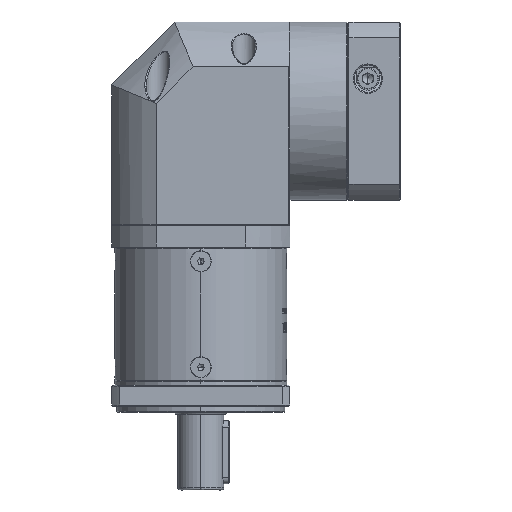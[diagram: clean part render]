
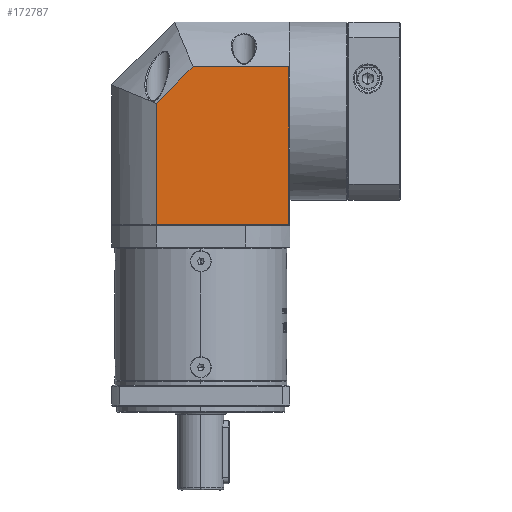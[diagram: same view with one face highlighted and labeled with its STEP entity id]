
A CAD part, front view. The second image highlights one B-rep face of the part: STEP entity #172787.
In plain terms, the highlighted planar face has unit normal (0, -1, 0).
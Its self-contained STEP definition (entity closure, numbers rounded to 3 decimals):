
#1022 = CARTESIAN_POINT ( 'NONE',  ( -17.104, 108.276, -58.338 ) ) ;
#1409 = ORIENTED_EDGE ( 'NONE', *, *, #33025, .F. ) ;
#5832 = LINE ( 'NONE', #173617, #166578 ) ;
#9491 = DIRECTION ( 'NONE',  ( 0., 0., 1. ) ) ;
#19259 = DIRECTION ( 'NONE',  ( 0., 0., -1. ) ) ;
#29913 = LINE ( 'NONE', #101221, #167103 ) ;
#33025 = EDGE_CURVE ( 'NONE', #138522, #41418, #5832, .T. ) ;
#39220 = FACE_OUTER_BOUND ( 'NONE', #160134, .T. ) ;
#40682 = VERTEX_POINT ( 'NONE', #101762 ) ;
#41418 = VERTEX_POINT ( 'NONE', #109873 ) ;
#49243 = LINE ( 'NONE', #134871, #81418 ) ;
#51247 = CARTESIAN_POINT ( 'NONE',  ( -17.104, 108.276, -0.656 ) ) ;
#52696 = DIRECTION ( 'NONE',  ( 1., 0., 0. ) ) ;
#53428 = CARTESIAN_POINT ( 'NONE',  ( 46.109, 108.276, -58.338 ) ) ;
#56500 = AXIS2_PLACEMENT_3D ( 'NONE', #150195, #68029, #163887 ) ;
#57192 = VECTOR ( 'NONE', #147220, 1000. ) ;
#57380 = EDGE_CURVE ( 'NONE', #138522, #173430, #49243, .T. ) ;
#62098 = LINE ( 'NONE', #164826, #130738 ) ;
#64307 = EDGE_CURVE ( 'NONE', #64704, #173430, #29913, .T. ) ;
#64704 = VERTEX_POINT ( 'NONE', #98063 ) ;
#66977 = ORIENTED_EDGE ( 'NONE', *, *, #57380, .T. ) ;
#68029 = DIRECTION ( 'NONE',  ( 0., 1., 0. ) ) ;
#81199 = PLANE ( 'NONE',  #56500 ) ;
#81418 = VECTOR ( 'NONE', #52696, 1000. ) ;
#98063 = CARTESIAN_POINT ( 'NONE',  ( 46.109, 108.276, 16.875 ) ) ;
#101221 = CARTESIAN_POINT ( 'NONE',  ( 46.109, 108.276, 38.162 ) ) ;
#101762 = CARTESIAN_POINT ( 'NONE',  ( 0.426, 108.276, 16.875 ) ) ;
#109362 = EDGE_CURVE ( 'NONE', #40682, #64704, #62098, .T. ) ;
#109873 = CARTESIAN_POINT ( 'NONE',  ( -17.104, 108.276, -0.656 ) ) ;
#115620 = ORIENTED_EDGE ( 'NONE', *, *, #130118, .F. ) ;
#130118 = EDGE_CURVE ( 'NONE', #41418, #40682, #162263, .T. ) ;
#130738 = VECTOR ( 'NONE', #151100, 1000. ) ;
#134871 = CARTESIAN_POINT ( 'NONE',  ( 46.609, 108.276, -58.338 ) ) ;
#138522 = VERTEX_POINT ( 'NONE', #1022 ) ;
#147220 = DIRECTION ( 'NONE',  ( 0.707, 0., 0.707 ) ) ;
#149961 = ORIENTED_EDGE ( 'NONE', *, *, #64307, .F. ) ;
#150195 = CARTESIAN_POINT ( 'NONE',  ( 46.609, 108.276, 38.162 ) ) ;
#151100 = DIRECTION ( 'NONE',  ( 1., 0., 0. ) ) ;
#160134 = EDGE_LOOP ( 'NONE', ( #66977, #149961, #173904, #115620, #1409 ) ) ;
#162263 = LINE ( 'NONE', #51247, #57192 ) ;
#163887 = DIRECTION ( 'NONE',  ( -1., 0., 0. ) ) ;
#164826 = CARTESIAN_POINT ( 'NONE',  ( 46.609, 108.276, 16.875 ) ) ;
#166578 = VECTOR ( 'NONE', #9491, 1000. ) ;
#167103 = VECTOR ( 'NONE', #19259, 1000. ) ;
#172787 = ADVANCED_FACE ( 'NONE', ( #39220 ), #81199, .F. ) ;
#173430 = VERTEX_POINT ( 'NONE', #53428 ) ;
#173617 = CARTESIAN_POINT ( 'NONE',  ( -17.104, 108.276, 38.162 ) ) ;
#173904 = ORIENTED_EDGE ( 'NONE', *, *, #109362, .F. ) ;
